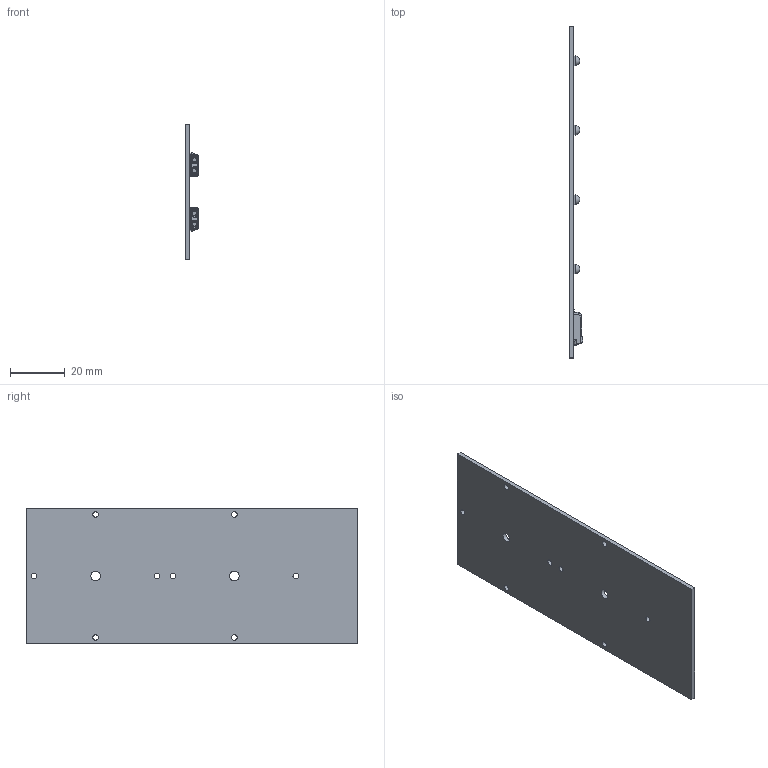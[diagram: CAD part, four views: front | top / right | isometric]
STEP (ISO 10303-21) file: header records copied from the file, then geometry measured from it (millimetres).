
FILE_DESCRIPTION(/* description */ ('Unknown'),/* implementation_level */ '2;1');
FILE_NAME(/* name */ 'RecLED 122x50mm 1900lm 2x4 3535 sh-000 2023-12-18',/* time_stamp */ '2023-12-19T06:27:22+01:00',/* author */ ('Unknown'),/* organization */ ('Unknown'),/* preprocessor_version */ 'ST-DEVELOPER v18.102',/* originating_system */ 'Solid Edge',/* authorisation */ 'Unknown');
FILE_SCHEMA (('AUTOMOTIVE_DESIGN {1 0 10303 214 3 1 1}'));
Length unit declared in the file: millimetre
Products named in the file (1): RecLED 122x50mm 1900lm 2x4 3535 sh-000 2023-12-18
Bounding box: 4.95 x 121.4 x 49.5 mm (x, y, z)
Volume: 9581.5 mm3; surface area: 13491.5 mm2
Topology: 1 solids, 1 shells, 1133 faces, 3013 edges, 1898 vertices
Faces by surface type: plane 567, cylinder 290, torus 112, cone 88, bspline 48, sphere 28
Full cylindrical faces by diameter (mm): 2.1 x8, 3.5 x2
Entity records: 44413 total; most frequent: CARTESIAN_POINT 10227, ORIENTED_EDGE 5850, DIRECTION 4714, EDGE_CURVE 2925, VERTEX_POINT 1864, AXIS2_PLACEMENT_3D 1588, LINE 1538, VECTOR 1538
